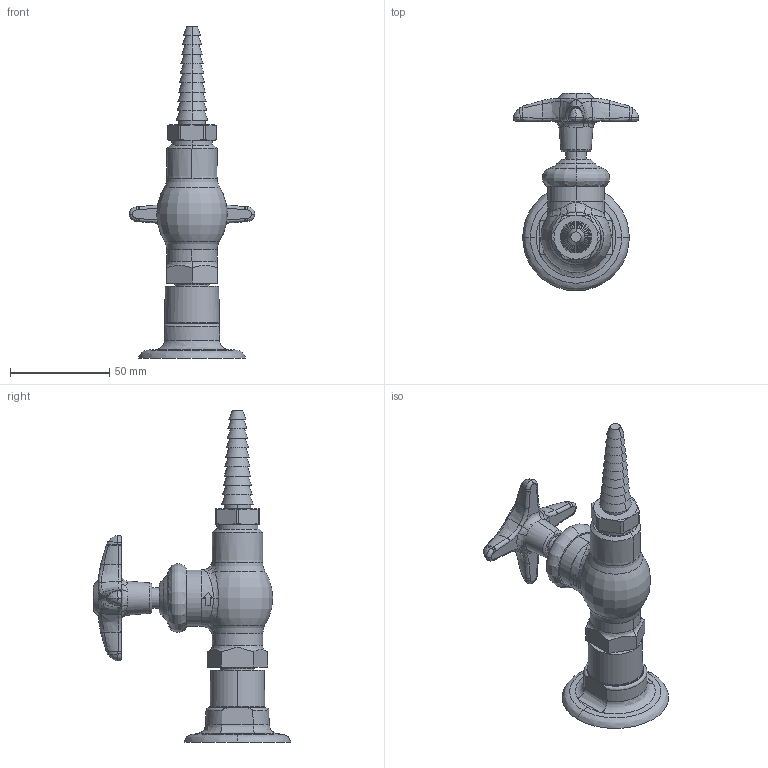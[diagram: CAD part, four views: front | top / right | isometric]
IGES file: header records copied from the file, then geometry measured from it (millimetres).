
Start section:  PTC IGES file: LWV1-B14-50.igs
Global section: file name: LWV1-B14-50.igs; native system: Creo Parametric by PTC Inc.; preprocessor: 2014500; author: usch_engrender; organization: Unknown; date: 20151111.111815; units: inch
Bounding box: 63.42 x 99.69 x 167.56 mm (x, y, z)
Volume: 116097.7 mm3; surface area: 24956.1 mm2
Topology: 1 solids, 3 shells, 297 faces, 670 edges, 400 vertices
Faces by surface type: bspline 185, revolution 112
